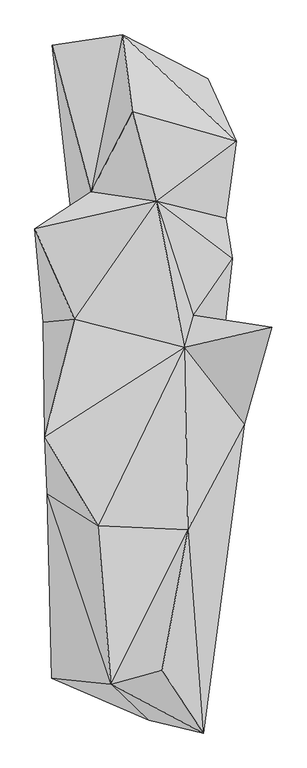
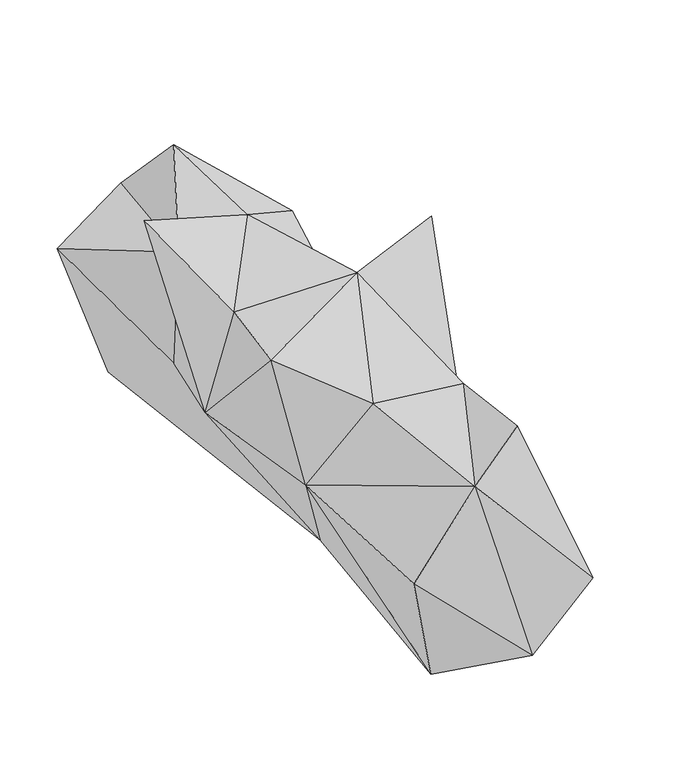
"""IFC4 building model written with IfcOpenShell, lengths in millimetres: geographic element geometry, Enscape AssetDefinition - Potted Plant 250 Snake Plant : Enscape AssetDefinition - Potted Plant 250 Snake Plant 3."""

import ifcopenshell
import ifcopenshell.guid

model = None  # the IFC model being written
_history = None  # IfcOwnerHistory: only IFC2X3 demands one
_inside = {}  # id of a spatial element -> (the spatial element, [elements in it])
_under = {}  # id of a project, library or spatial element -> (it, [spatial elements below it])
_declared = {}  # id of a project -> (the project, [libraries it declares])
_typed = {}  # id of a type object -> (the type object, [elements of that type])
_made_of = {}  # id of a material, layer set ... -> (it, [elements and type objects made of it])


def new_model(schema):
    """Start an empty IFC model of exactly this schema.

    Asked for "IFC4X3", IfcOpenShell would pick the latest addendum, in which some entities
    have other attributes; the version numbers below select the first issue.
    IFC2X3 requires an IfcOwnerHistory on every rooted entity: one is made here for all.
    """
    global model, _history
    if schema == "IFC4X3":
        model = ifcopenshell.file(schema_version=(4, 3, 0, 0))
    else:
        model = ifcopenshell.file(schema=schema)
    _inside.clear()
    _under.clear()
    _declared.clear()
    _typed.clear()
    _made_of.clear()
    _history = None
    if model.schema == "IFC2X3":
        org = make("IfcOrganization", Name="unknown")
        user = make(
            "IfcPersonAndOrganization",
            ThePerson=make("IfcPerson", FamilyName="unknown"),
            TheOrganization=org,
        )
        app = make(
            "IfcApplication",
            ApplicationDeveloper=org,
            Version="unknown",
            ApplicationFullName="unknown",
            ApplicationIdentifier="unknown",
        )
        _history = make(
            "IfcOwnerHistory",
            OwningUser=user,
            OwningApplication=app,
            ChangeAction="ADDED",
            CreationDate=0,
        )
    return model


def make(cls, **values):
    """One entity of the class cls with the attributes given. An attribute that is None is left unset."""
    return model.create_entity(
        cls, **{name: value for name, value in values.items() if value is not None}
    )


def rooted(cls, **values):
    """An entity with a GlobalId (a new one), such as an element, a storey or a relation."""
    return make(cls, GlobalId=ifcopenshell.guid.new(), OwnerHistory=_history, **values)


def si_unit(unit_type, name, prefix=None):
    """IfcSIUnit, for example si_unit("LENGTHUNIT", "METRE", prefix="MILLI")."""
    return make("IfcSIUnit", UnitType=unit_type, Prefix=prefix, Name=name)


def assignment(units):
    """IfcUnitAssignment: the units of a project."""
    return None if units is None else make("IfcUnitAssignment", Units=units)


def point(xyz):
    """IfcCartesianPoint."""
    return None if xyz is None else make("IfcCartesianPoint", Coordinates=xyz)


def direction(xyz):
    """IfcDirection."""
    return None if xyz is None else make("IfcDirection", DirectionRatios=xyz)


def frame(location, z_axis=None, x_axis=None):
    """IfcAxis2Placement3D, a coordinate frame: its origin and axes. An axis left out is left unset."""
    return make(
        "IfcAxis2Placement3D",
        Location=point(location),
        Axis=direction(z_axis),
        RefDirection=direction(x_axis),
    )


def origin():
    """The frame at (0, 0, 0) with its axes left unset."""
    return frame((0.0, 0.0, 0.0))


def place(relative_to, where):
    """IfcLocalPlacement: puts the frame where relative to a parent placement (None: the world)."""
    return make(
        "IfcLocalPlacement", PlacementRelTo=relative_to, RelativePlacement=where
    )


def context(
    kind, dimensions, precision=None, world=None, true_north=None, identifier=None
):
    """IfcGeometricRepresentationContext, for example the 3D "Model" context."""
    return make(
        "IfcGeometricRepresentationContext",
        ContextIdentifier=identifier,
        ContextType=kind,
        CoordinateSpaceDimension=dimensions,
        Precision=precision,
        WorldCoordinateSystem=world,
        TrueNorth=true_north,
    )


def project(units=None, contexts=None):
    """IfcProject with its units and contexts."""
    return rooted(
        "IfcProject",
        Name="project",
        RepresentationContexts=contexts,
        UnitsInContext=assignment(units),
    )


def spatial(cls, under=None, at=None, **own):
    """A site, building, storey or space (cls), placed at a placement, below another one or the project."""
    s = rooted(cls, ObjectPlacement=at, **own)
    if under is not None:
        _under.setdefault(under.id(), (under, []))[1].append(s)
    return s


def point_list(points):
    """IfcCartesianPointList2D or 3D."""
    cls = (
        "IfcCartesianPointList2D" if len(points[0]) == 2 else "IfcCartesianPointList3D"
    )
    return make(cls, CoordList=points)


def triangles(points, corners, closed=None, point_numbers=None):
    """IfcTriangulatedFaceSet: each triangle names its three corners, points numbered from 1."""
    return make(
        "IfcTriangulatedFaceSet",
        Coordinates=point_list(points),
        Closed=closed,
        CoordIndex=corners,
        PnIndex=point_numbers,
    )


def shape(context_of_items, identifier, shape_type, items):
    """IfcShapeRepresentation: the items that make up one representation, for example the "Body"."""
    return make(
        "IfcShapeRepresentation",
        ContextOfItems=context_of_items,
        RepresentationIdentifier=identifier,
        RepresentationType=shape_type,
        Items=items,
    )


def source(mapping_origin, context_of_items, identifier, shape_type, items):
    """IfcRepresentationMap: a shape defined once, which mapped items show again and again."""
    return make(
        "IfcRepresentationMap",
        MappingOrigin=mapping_origin,
        MappedRepresentation=shape(context_of_items, identifier, shape_type, items),
    )


def transform(
    local_origin,
    x_axis=None,
    y_axis=None,
    z_axis=None,
    scale=None,
    scale2=None,
    scale3=None,
    uniform=True,
):
    """IfcCartesianTransformationOperator3D, or its non-uniform kind. x_axis, y_axis, z_axis: its Axis1, 2, 3."""
    if uniform:
        return make(
            "IfcCartesianTransformationOperator3D",
            Axis1=direction(x_axis),
            Axis2=direction(y_axis),
            LocalOrigin=point(local_origin),
            Scale=scale,
            Axis3=direction(z_axis),
        )
    return make(
        "IfcCartesianTransformationOperator3DnonUniform",
        Axis1=direction(x_axis),
        Axis2=direction(y_axis),
        LocalOrigin=point(local_origin),
        Scale=scale,
        Axis3=direction(z_axis),
        Scale2=scale2,
        Scale3=scale3,
    )


def mapped(mapping_source, mapping_target):
    """IfcMappedItem: shows the shape of a source again, moved by a transform."""
    return make(
        "IfcMappedItem", MappingSource=mapping_source, MappingTarget=mapping_target
    )


def made_of(thing, what):
    """Note that an element or type object is made of a material, layer set ...; save() writes the relation."""
    if what is not None:
        _made_of.setdefault(what.id(), (what, []))[1].append(thing)
    return thing


def element(
    cls,
    number,
    at=None,
    inside=None,
    cuts=None,
    type_object=None,
    material=None,
    context=None,
    identifier="Body",
    shape_type=None,
    held_by="IfcProductDefinitionShape",
    body=None,
    shapes=None,
    **own,
):
    """One element of the class cls, such as IfcWall. Its Tag is "e" and its number.

    at: its placement. inside: the storey or other place that contains it. cuts: it is an
    opening in that element (IfcRelVoidsElement). A single representation is given by context,
    identifier, shape_type and body (its items); several are given by shapes. held_by: the class
    of the entity that holds the representations. save() writes the other relations.
    """
    e = rooted(cls, Tag="e%d" % number, ObjectPlacement=at, **own)
    if body is not None:
        shapes = [shape(context, identifier, shape_type, body)]
    if shapes is not None:
        e.Representation = make(held_by, Representations=shapes)
    if inside is not None:
        _inside.setdefault(inside.id(), (inside, []))[1].append(e)
    if cuts is not None:
        rooted(
            "IfcRelVoidsElement", RelatingBuildingElement=cuts, RelatedOpeningElement=e
        )
    if type_object is not None:
        _typed.setdefault(type_object.id(), (type_object, []))[1].append(e)
    return made_of(e, material)


def aggregate(whole, parts):
    """IfcRelAggregates: a whole, such as a stair, and the parts it consists of."""
    return rooted("IfcRelAggregates", RelatingObject=whole, RelatedObjects=parts)


def save(model, path):
    """Write the relations noted so far, then the file.

    IfcRelAggregates (storeys below a building ...), IfcRelContainedInSpatialStructure (elements
    in a storey), IfcRelDefinesByType, IfcRelAssociatesMaterial and IfcRelDeclares: one each for
    every whole, place, type object, material and project.
    """
    for whole, parts in _under.values():
        aggregate(whole, parts)
    for where, things in _inside.values():
        rooted(
            "IfcRelContainedInSpatialStructure",
            RelatedElements=things,
            RelatingStructure=where,
        )
    for kind, things in _typed.values():
        rooted("IfcRelDefinesByType", RelatedObjects=things, RelatingType=kind)
    for what, things in _made_of.values():
        rooted("IfcRelAssociatesMaterial", RelatedObjects=things, RelatingMaterial=what)
    for by, libraries in _declared.values():
        rooted("IfcRelDeclares", RelatingContext=by, RelatedDefinitions=libraries)
    model.write(path)


def geographic_element_9b304887(model_context):
    return source(origin(), model_context, "Body", "Tessellation", [
        triangles([(-25.7335719, 931.3509275, 752.7869722), (-58.4721577, 1187.8695723, 470.2285289), (225.8879926, 1041.2916733, 96.8493573), (47.2416113, 912.2529654, 0.0), (-163.3523475, 664.9873896, 575.2666306), (286.0753435, 576.7497886, 395.2085804), (321.2665821, 834.2241526, 452.153651), (235.4088322, 618.7331635, 138.133756), (122.4593312, -119.5123181, 0.0), (54.9799517, 633.2320604, 653.2405048), (177.889705, 255.079452, 477.7814472), (307.6451752, 441.9584885, 390.977516), (254.3777143, -38.1437428, 244.4696164), (439.136495, 214.4267372, 767.6194971), (347.3723288, -108.0771604, 353.2320365), (159.9301908, -459.7478096, 668.7638306), (210.4360288, -1136.777342, 360.7094144), (233.9600289, -848.7464493, 0.0), (29.0060534, -1094.4492571, 119.7540094), (73.545093, -927.7736023, 829.9999918), (-140.6688029, -446.8089191, 695.3433855), (-294.884853, -954.2060732, 406.0793195), (-97.0388625, -973.6665859, 700.8913754), (-132.5363324, -121.0805818, 0.0), (-5.6125253, -829.1211937, 0.0), (-225.3496715, -935.2853531, 44.3563859), (-309.2354487, -340.2601902, 395.8787066), (147.1478497, 147.9924202, 705.3393597), (-317.429716, -150.5343163, 734.6118462), (-218.7676423, 240.3841644, 636.1488882), (-323.0367139, 231.8891706, 315.5688921), (-228.2074549, 580.3175214, 248.8311052), (-350.9922386, 542.1778436, 828.0884079), (-241.1380792, 944.9242996, 0.0), (-293.5788463, 1154.1051361, 336.8627232)], [[4, 9, 24], [34, 4, 24], [4, 34, 35], [35, 34, 32], [24, 32, 34], [5, 35, 32], [5, 33, 10], [28, 10, 30], [33, 30, 10], [31, 33, 5], [24, 31, 32], [31, 5, 32], [30, 33, 31], [29, 30, 31], [28, 30, 29], [28, 29, 21], [27, 21, 29], [27, 29, 31], [27, 31, 24], [27, 26, 22], [27, 24, 26], [24, 25, 26], [24, 9, 25], [22, 26, 19], [26, 25, 19], [21, 27, 23], [22, 19, 23], [27, 22, 23], [16, 23, 20], [28, 21, 16], [16, 21, 23], [17, 16, 20], [17, 23, 19], [20, 23, 17], [18, 25, 9], [19, 25, 18], [17, 19, 18], [18, 15, 17], [15, 28, 16], [15, 16, 17], [28, 15, 14], [9, 15, 18], [15, 9, 13], [15, 13, 11], [14, 15, 11], [10, 28, 11], [11, 28, 14], [12, 11, 13], [12, 13, 9], [12, 10, 11], [6, 10, 12], [4, 8, 9], [6, 12, 8], [8, 12, 9], [8, 4, 3], [7, 10, 6], [7, 6, 8], [8, 3, 7], [1, 10, 7], [5, 10, 1], [2, 7, 3], [4, 35, 2], [5, 2, 35], [5, 1, 2], [2, 3, 4], [2, 1, 7]]),
    ])


if __name__ == "__main__":
    model = new_model("IFC4")
    model_context = context("Model", 3, world=origin())
    ifc_project = project(units=[si_unit("LENGTHUNIT", "METRE", prefix="MILLI")], contexts=[model_context])
    site = spatial("IfcSite", under=ifc_project)
    building = spatial("IfcBuilding", under=site)
    placement = place(None, origin())
    geographic_element_shape = geographic_element_9b304887(model_context)
    element("IfcGeographicElement", 1, ObjectType="Enscape AssetDefinition - Potted Plant 250 Snake Plant : Enscape AssetDefinition - Potted Plant 250 Snake Plant 3", at=placement, inside=building, context=model_context, shape_type="MappedRepresentation", body=[
        mapped(geographic_element_shape, transform((0.0, 0.0, 0.0), x_axis=(1.0, 0.0, 0.0), y_axis=(0.0, 1.0, 0.0), z_axis=(0.0, 0.0, 1.0))),
    ])
    save(model, "model.ifc")
